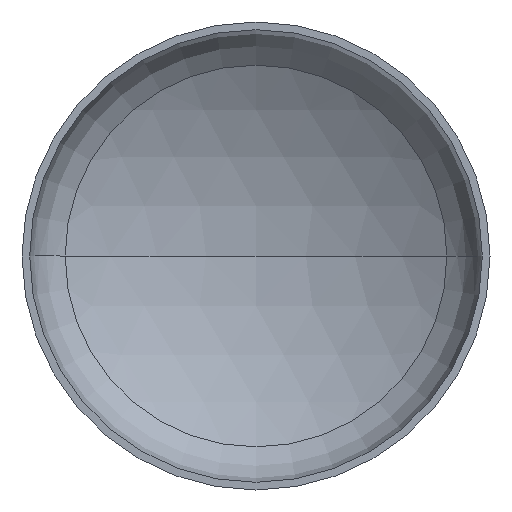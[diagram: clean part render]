
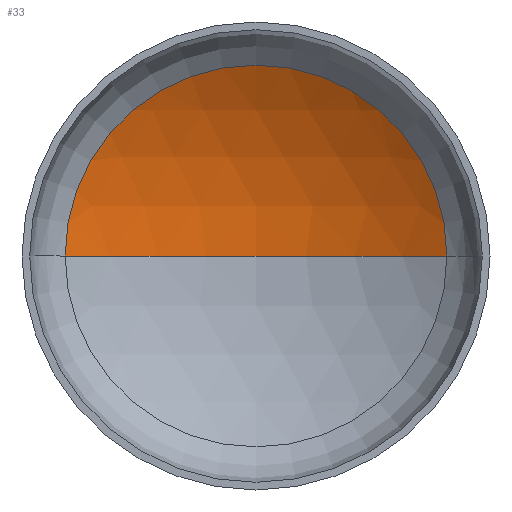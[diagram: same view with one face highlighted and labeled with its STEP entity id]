
A CAD part, front view. The second image highlights one B-rep face of the part: STEP entity #33.
In plain terms, the highlighted spherical face has radius 3600 mm.
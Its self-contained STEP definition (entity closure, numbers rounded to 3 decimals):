
#4 = VERTEX_POINT ( 'NONE', #256 ) ;
#5 = AXIS2_PLACEMENT_3D ( 'NONE', #160, #365, #241 ) ;
#13 = EDGE_LOOP ( 'NONE', ( #54, #55, #90 ) ) ;
#26 = CIRCLE ( 'NONE', #40, 3600. ) ;
#28 = DIRECTION ( 'NONE',  ( 1., 0., 0. ) ) ;
#31 = VERTEX_POINT ( 'NONE', #245 ) ;
#33 = ADVANCED_FACE ( 'NONE', ( #148 ), #389, .F. ) ;
#38 = DIRECTION ( 'NONE',  ( 0., -1., 0. ) ) ;
#40 = AXIS2_PLACEMENT_3D ( 'NONE', #44, #181, #185 ) ;
#42 = AXIS2_PLACEMENT_3D ( 'NONE', #43, #38, #28 ) ;
#43 = CARTESIAN_POINT ( 'NONE',  ( 0., 717.899, 0. ) ) ;
#44 = CARTESIAN_POINT ( 'NONE',  ( 0., -2379.133, 0. ) ) ;
#54 = ORIENTED_EDGE ( 'NONE', *, *, #366, .F. ) ;
#55 = ORIENTED_EDGE ( 'NONE', *, *, #195, .T. ) ;
#73 = AXIS2_PLACEMENT_3D ( 'NONE', #251, #230, #229 ) ;
#90 = ORIENTED_EDGE ( 'NONE', *, *, #183, .T. ) ;
#148 = FACE_OUTER_BOUND ( 'NONE', #13, .T. ) ;
#155 = CARTESIAN_POINT ( 'NONE',  ( -1835.318, 717.899, 0. ) ) ;
#160 = CARTESIAN_POINT ( 'NONE',  ( 0., -2379.133, 0. ) ) ;
#181 = DIRECTION ( 'NONE',  ( 0., 0., -1. ) ) ;
#183 = EDGE_CURVE ( 'NONE', #31, #396, #368, .T. ) ;
#185 = DIRECTION ( 'NONE',  ( -1., 0., 0. ) ) ;
#195 = EDGE_CURVE ( 'NONE', #4, #31, #26, .T. ) ;
#229 = DIRECTION ( 'NONE',  ( -1., 0., 0. ) ) ;
#230 = DIRECTION ( 'NONE',  ( 0., 0., -1. ) ) ;
#241 = DIRECTION ( 'NONE',  ( 1., 0., 0. ) ) ;
#245 = CARTESIAN_POINT ( 'NONE',  ( 1835.318, 717.899, 0. ) ) ;
#251 = CARTESIAN_POINT ( 'NONE',  ( 0., -2379.133, 0. ) ) ;
#256 = CARTESIAN_POINT ( 'NONE',  ( 0., 1220.867, 0. ) ) ;
#331 = CIRCLE ( 'NONE', #5, 3600. ) ;
#365 = DIRECTION ( 'NONE',  ( 0., 0., 1. ) ) ;
#366 = EDGE_CURVE ( 'NONE', #4, #396, #331, .T. ) ;
#368 = CIRCLE ( 'NONE', #42, 1835.318 ) ;
#389 = SPHERICAL_SURFACE ( 'NONE', #73, 3600. ) ;
#396 = VERTEX_POINT ( 'NONE', #155 ) ;
